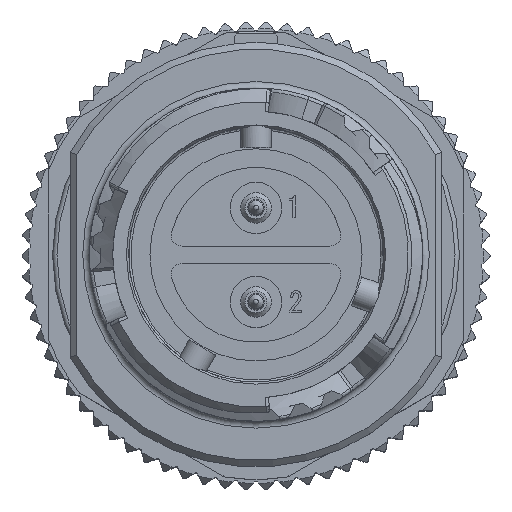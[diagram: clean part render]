
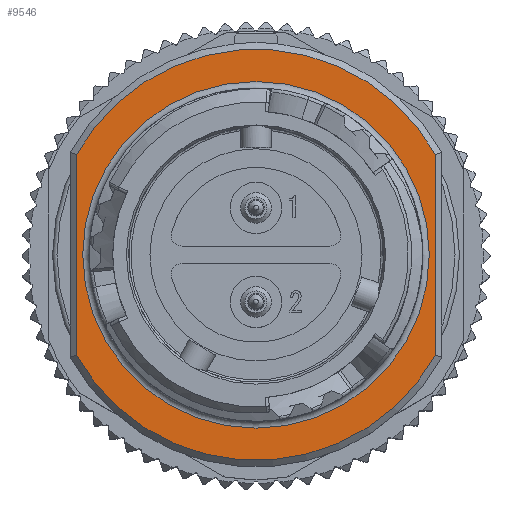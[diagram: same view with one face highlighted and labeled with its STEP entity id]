
A CAD part, top view. The second image highlights one B-rep face of the part: STEP entity #9546.
In plain terms, the highlighted planar face has unit normal (0, 0, 1).
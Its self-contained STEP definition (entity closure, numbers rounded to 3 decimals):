
#421 = AXIS2_PLACEMENT_3D ( 'NONE', #9816, #33080, #13526 ) ;
#1077 = EDGE_CURVE ( 'NONE', #29847, #34626, #10569, .T. ) ;
#1078 = ORIENTED_EDGE ( 'NONE', *, *, #18874, .T. ) ;
#1927 = DIRECTION ( 'NONE',  ( 0., 0., 1. ) ) ;
#2378 = DIRECTION ( 'NONE',  ( 1., 0., 0. ) ) ;
#4789 = VERTEX_POINT ( 'NONE', #31215 ) ;
#6737 = CARTESIAN_POINT ( 'NONE',  ( 8.2, -4.596, -8. ) ) ;
#8113 = EDGE_LOOP ( 'NONE', ( #25304, #24038, #19708, #1078 ) ) ;
#8374 = CARTESIAN_POINT ( 'NONE',  ( 8.2, 0., -8. ) ) ;
#8845 = CARTESIAN_POINT ( 'NONE',  ( 0., 0., -8. ) ) ;
#9243 = EDGE_LOOP ( 'NONE', ( #23383 ) ) ;
#9546 = ADVANCED_FACE ( 'NONE', ( #29457, #20803 ), #21226, .T. ) ;
#9816 = CARTESIAN_POINT ( 'NONE',  ( 0., 0., -8. ) ) ;
#10368 = CARTESIAN_POINT ( 'NONE',  ( -8.2, 0., -8. ) ) ;
#10569 = CIRCLE ( 'NONE', #37213, 9.4 ) ;
#13526 = DIRECTION ( 'NONE',  ( 1., 0., 0. ) ) ;
#16444 = CARTESIAN_POINT ( 'NONE',  ( 0., 0., -8. ) ) ;
#17809 = DIRECTION ( 'NONE',  ( 1., 0., 0. ) ) ;
#18874 = EDGE_CURVE ( 'NONE', #34626, #4789, #32786, .T. ) ;
#19597 = EDGE_CURVE ( 'NONE', #38883, #29847, #35777, .T. ) ;
#19708 = ORIENTED_EDGE ( 'NONE', *, *, #1077, .T. ) ;
#20803 = FACE_BOUND ( 'NONE', #9243, .T. ) ;
#21226 = PLANE ( 'NONE',  #35339 ) ;
#21521 = DIRECTION ( 'NONE',  ( 0., 1., 0. ) ) ;
#21623 = VECTOR ( 'NONE', #23677, 1000. ) ;
#21937 = AXIS2_PLACEMENT_3D ( 'NONE', #8845, #41567, #2378 ) ;
#22802 = EDGE_CURVE ( 'NONE', #4789, #38883, #30560, .T. ) ;
#23383 = ORIENTED_EDGE ( 'NONE', *, *, #38313, .T. ) ;
#23677 = DIRECTION ( 'NONE',  ( 0., -1., 0. ) ) ;
#24038 = ORIENTED_EDGE ( 'NONE', *, *, #19597, .T. ) ;
#25304 = ORIENTED_EDGE ( 'NONE', *, *, #22802, .T. ) ;
#27649 = CARTESIAN_POINT ( 'NONE',  ( 0., 0., -8. ) ) ;
#29438 = DIRECTION ( 'NONE',  ( 0., 0., 1. ) ) ;
#29457 = FACE_OUTER_BOUND ( 'NONE', #8113, .T. ) ;
#29847 = VERTEX_POINT ( 'NONE', #31888 ) ;
#30560 = CIRCLE ( 'NONE', #421, 9.4 ) ;
#30737 = CARTESIAN_POINT ( 'NONE',  ( 7.925, 0., -8. ) ) ;
#31215 = CARTESIAN_POINT ( 'NONE',  ( -8.2, -4.596, -8. ) ) ;
#31888 = CARTESIAN_POINT ( 'NONE',  ( 8.2, 4.596, -8. ) ) ;
#32257 = VECTOR ( 'NONE', #21521, 1000. ) ;
#32786 = LINE ( 'NONE', #10368, #21623 ) ;
#33080 = DIRECTION ( 'NONE',  ( 0., 0., 1. ) ) ;
#34626 = VERTEX_POINT ( 'NONE', #39374 ) ;
#35339 = AXIS2_PLACEMENT_3D ( 'NONE', #27649, #1927, #17809 ) ;
#35777 = LINE ( 'NONE', #8374, #32257 ) ;
#35827 = CIRCLE ( 'NONE', #21937, 7.925 ) ;
#36814 = DIRECTION ( 'NONE',  ( 1., 0., 0. ) ) ;
#37213 = AXIS2_PLACEMENT_3D ( 'NONE', #16444, #29438, #36814 ) ;
#38313 = EDGE_CURVE ( 'NONE', #40206, #40206, #35827, .T. ) ;
#38883 = VERTEX_POINT ( 'NONE', #6737 ) ;
#39374 = CARTESIAN_POINT ( 'NONE',  ( -8.2, 4.596, -8. ) ) ;
#40206 = VERTEX_POINT ( 'NONE', #30737 ) ;
#41567 = DIRECTION ( 'NONE',  ( 0., 0., -1. ) ) ;
